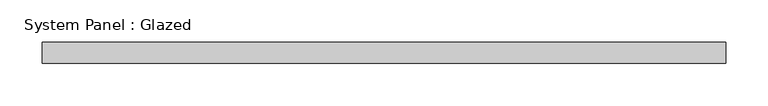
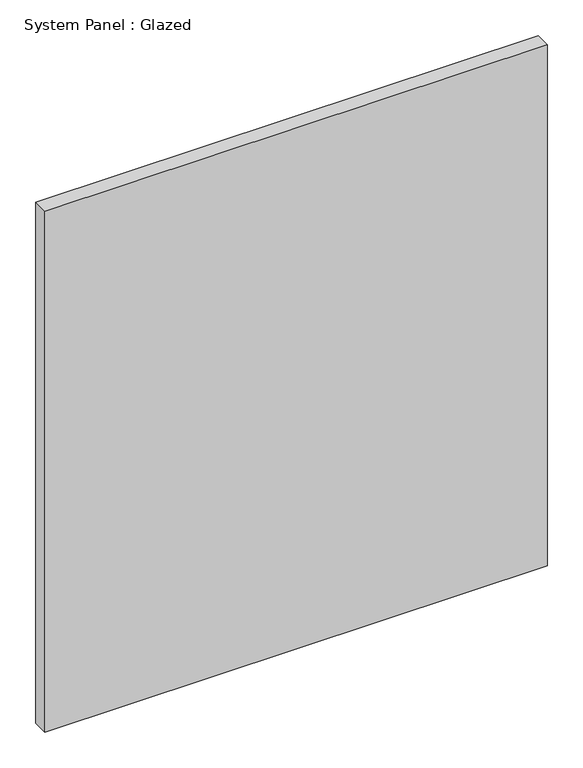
"""IFC4 building model written with IfcOpenShell, lengths in millimetres: plate geometry, System Panel : Glazed."""

from ifc_helpers import new_model, si_unit, origin, origin_with_axes, place, context, project, spatial, polyline, outline, extrude, source, transform, mapped, element, save


def system_panel_glazed_c2e36998(model_context):
    return source(origin(), model_context, "Body", "SweptSolid", [
        extrude(outline(polyline([(404.8828858, 24.5), (-404.8828858, 24.5), (-404.8828858, 49.5), (404.8828858, 49.5), (404.8828858, 24.5)])), origin_with_axes(), (0.0, 0.0, 1.0), 888.2560116),
    ])


if __name__ == "__main__":
    model = new_model("IFC4")
    model_context = context("Model", 3, world=origin())
    ifc_project = project(units=[si_unit("LENGTHUNIT", "METRE", prefix="MILLI")], contexts=[model_context])
    site = spatial("IfcSite", under=ifc_project)
    building = spatial("IfcBuilding", under=site)
    placement = place(None, origin())
    system_panel_glazed_shape = system_panel_glazed_c2e36998(model_context)
    element("IfcPlate", 1, ObjectType="System Panel : Glazed", at=placement, inside=building, context=model_context, shape_type="MappedRepresentation", body=[
        mapped(system_panel_glazed_shape, transform((0.0, 0.0, 0.0), x_axis=(1.0, 0.0, 0.0), y_axis=(0.0, 1.0, 0.0), z_axis=(0.0, 0.0, 1.0))),
    ])
    save(model, "model.ifc")
